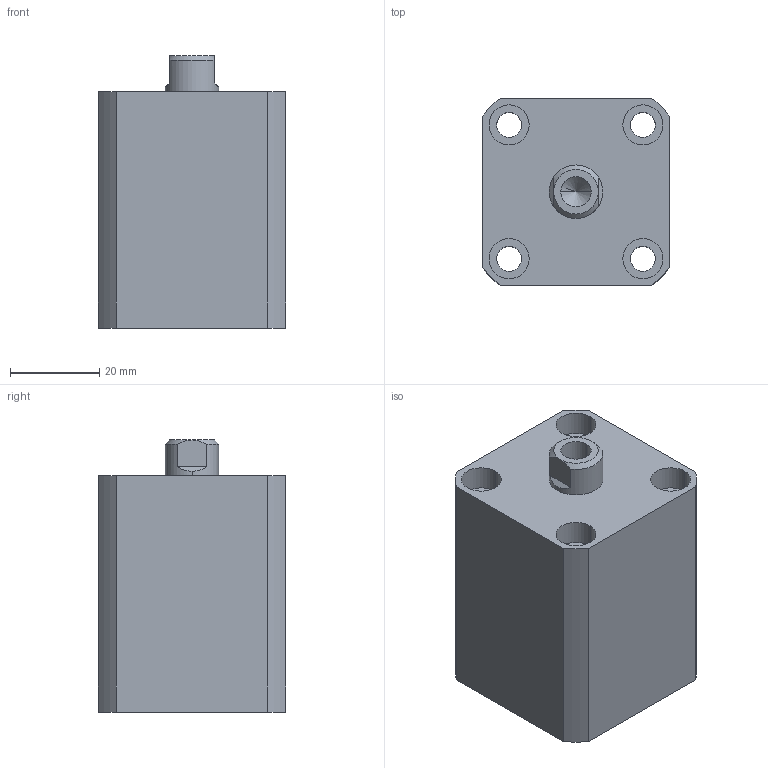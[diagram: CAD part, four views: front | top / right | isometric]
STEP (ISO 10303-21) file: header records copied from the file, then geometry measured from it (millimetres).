
FILE_DESCRIPTION (( 'STEP AP203' ), '1' );
FILE_NAME ('HTB-SDMB20-10N.STEP', '2019-10-08T11:53:15', ( '微软用户' ), ( '微软中国' ), 'SwSTEP 2.0', 'SolidWorks 2012', '' );
FILE_SCHEMA (( 'CONFIG_CONTROL_DESIGN' ));
Length unit declared in the file: millimetre
Products named in the file (3): HTB-SDMB20-10掛极; HTB-SDMB20-10N活塞杆; HTB-SDMB20-10N
Assembly tree (2 placements, depth 2):
  HTB-SDMB20-10N
    HTB-SDMB20-10掛极
    HTB-SDMB20-10N活塞杆
Bounding box: 42 x 42 x 61 mm (x, y, z)
Volume: 82970.1 mm3; surface area: 22061.9 mm2
Topology: 2 solids, 2 shells, 136 faces, 326 edges, 213 vertices
Faces by surface type: plane 64, cylinder 46, bspline 16, torus 6, cone 4
Entity records: 5023 total; most frequent: CARTESIAN_POINT 1570, ORIENTED_EDGE 648, DIRECTION 640, EDGE_CURVE 324, AXIS2_PLACEMENT_3D 231, VERTEX_POINT 213, VECTOR 178, LINE 178
